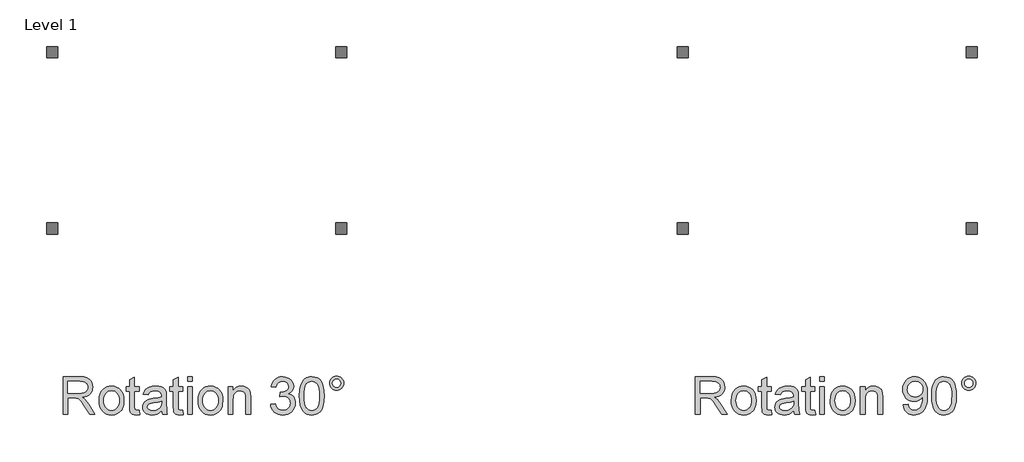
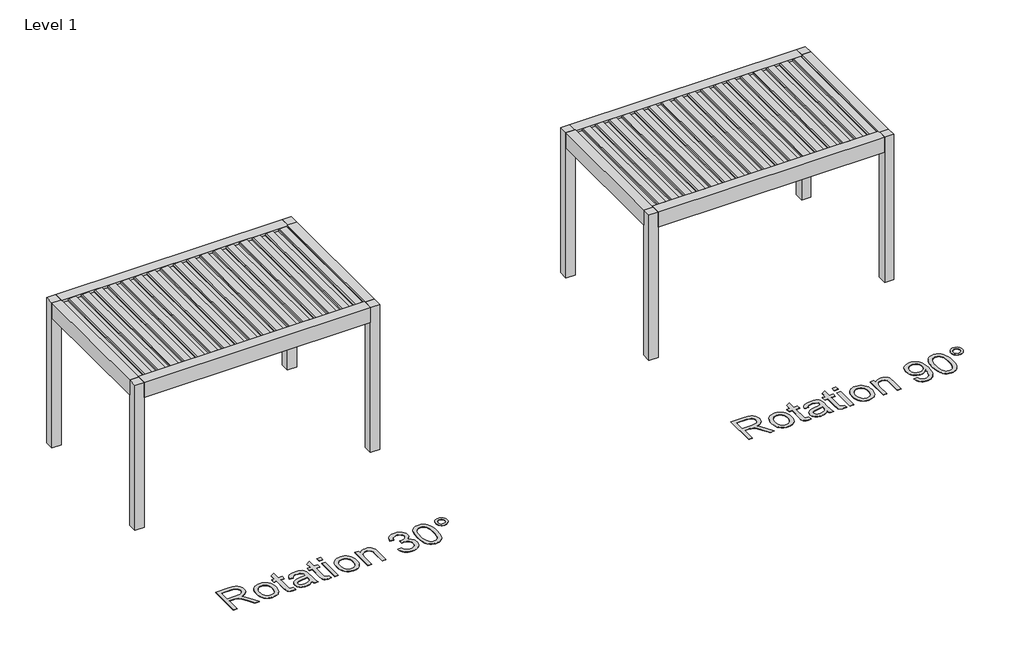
# One storey, part 53 of 69: 4 proxies.
"""IFC4 building model written with IfcOpenShell, lengths in millimetres."""

from ifc_helpers import new_model, si_unit, origin, origin_with_axes, place, context, project, spatial, polyline, outline, extrude, transform, mapped, element, save
from components import generic_models_076aa895

model = new_model("IFC4")

# Units and contexts
model_context = context("Model", 3, world=origin())
ifc_project = project(units=[si_unit("LENGTHUNIT", "METRE", prefix="MILLI")], contexts=[model_context])

# Site, building, storey
site = spatial("IfcSite", under=ifc_project)
building = spatial("IfcBuilding", under=site)
storey = spatial("IfcBuildingStorey", under=building, Name="Level 1", Elevation=0.0)

# Proxies
placement = place(None, origin())
generic_models_shape = generic_models_076aa895(model_context)
element("IfcBuildingElementProxy", 1, Name="Renson_Camargue_Skye_Freestanding_Patio covers : Renson_Camargue_Skye_Freestanding_Patio covers", ObjectType="Renson_Camargue_Skye_Freestanding_Patio covers : Renson_Camargue_Skye_Freestanding_Patio covers", at=placement, inside=storey, context=model_context, shape_type="MappedRepresentation", body=[
    mapped(generic_models_shape, transform((97932.7944478, 67778.5861401, 0.0), x_axis=(1.0, 0.0, 0.0), y_axis=(0.0, 1.0, 0.0), z_axis=(0.0, 0.0, 1.0))),
])
element("IfcBuildingElementProxy", 2, Name="Renson_Camargue_Skye_Freestanding_Patio covers : Renson_Camargue_Skye_Freestanding_Patio covers", ObjectType="Renson_Camargue_Skye_Freestanding_Patio covers : Renson_Camargue_Skye_Freestanding_Patio covers", at=placement, inside=storey, context=model_context, shape_type="MappedRepresentation", body=[
    mapped(generic_models_shape, transform((106332.7944478, 67778.5861401, 0.0), x_axis=(1.0, 0.0, 0.0), y_axis=(0.0, 1.0, 0.0), z_axis=(0.0, 0.0, 1.0))),
])
element("IfcBuildingElementProxy", 3, Name="500mm Arial", ObjectType="500mm Arial", at=placement, inside=storey, context=model_context, shape_type="SweptSolid", body=[
    extrude(outline(polyline([(96154.5980946, 64128.5861401), (96154.5980946, 64630.8676909), (96371.0353351, 64630.8676909), (96429.2066756, 64627.4801108), (96471.5284335, 64617.3173707), (96502.4611779, 64598.555389), (96526.4654781, 64569.370084), (96541.8705366, 64533.1796927), (96547.0055561, 64493.402452), (96544.8787383, 64467.6047271), (96538.498285, 64443.9223237), (96527.8641961, 64422.3552417), (96512.9764716, 64402.9034812), (96493.6435063, 64386.187843), (96469.6736951, 64372.8291281), (96441.0670378, 64362.8273364), (96407.8235346, 64356.1824678), (96428.5168968, 64342.6628045), (96443.5080882, 64329.3270822), (96494.3984308, 64264.7024784), (96578.1528984, 64128.5861401), (96505.189636, 64128.5861401), (96439.8292682, 64232.6967448), (96392.6177455, 64301.6133052), (96375.0667086, 64321.7088592), (96359.4470523, 64334.1708618), (96329.587297, 64346.1270266), (96293.1669795, 64348.3343186), (96217.3832884, 64348.3343186), (96217.3832884, 64128.5861401), (96154.5980946, 64128.5861401)]), holes=[polyline([(96217.3832884, 64411.1195124), (96357.9142106, 64411.1195124), (96398.2739312, 64413.3421328), (96429.589886, 64420.009994), (96453.1649905, 64431.56762), (96470.3021601, 64448.4595349), (96480.7408117, 64468.8923141), (96484.2203623, 64491.0725327), (96482.5610612, 64507.129049), (96477.583158, 64521.6987088), (96469.2866525, 64534.7815123), (96457.671545, 64546.3774593), (96442.4695879, 64555.8734133), (96423.4125342, 64562.6562376), (96373.7331364, 64568.082497), (96217.3832884, 64568.082497), (96217.3832884, 64411.1195124)])]), origin_with_axes(), (0.0, 0.0, 1.0), 5.0),
    extrude(outline(polyline([(96633.3351977, 64313.0176471), (96636.7304419, 64360.788657), (96646.9161747, 64401.9531194), (96663.8923959, 64436.5110343), (96687.6591056, 64464.4624017), (96711.5867637, 64482.3276711), (96737.9976253, 64495.0885778), (96766.8916903, 64502.7451219), (96798.2689588, 64505.2973032), (96832.9073479, 64502.1894668), (96864.2271349, 64492.8659574), (96892.2283197, 64477.3267753), (96916.9109023, 64455.5719202), (96937.0562736, 64428.3371562), (96951.4458246, 64396.3582474), (96960.0795551, 64359.6351936), (96962.9574653, 64318.167995), (96957.8684311, 64254.7390076), (96951.5071382, 64228.7036923), (96942.6013283, 64206.4544958), (96931.2621322, 64187.2364936), (96917.600681, 64170.2947613), (96901.6169747, 64155.6292989), (96883.3110134, 64143.2401063), (96842.5834108, 64126.3635197), (96798.2689588, 64120.7379909), (96763.124732, 64123.834331), (96731.5137051, 64133.1233514), (96703.4358783, 64148.605052), (96678.8912514, 64170.2794329), (96658.9604779, 64197.7786121), (96644.7242111, 64230.7347075), (96636.182451, 64269.1477191), (96633.3351977, 64313.0176471)]), holes=[polyline([(96696.1203915, 64313.1402744), (96697.9368089, 64282.686543), (96703.3860609, 64256.3178345), (96712.4681477, 64234.0341491), (96725.1830691, 64215.8354867), (96740.6494413, 64201.6988546), (96757.9858804, 64191.6012602), (96777.1923862, 64185.5427036), (96798.2689588, 64183.5231847), (96819.2382326, 64185.5541999), (96838.3680963, 64191.6472455), (96855.6585501, 64201.8023214), (96871.1095939, 64216.0194277), (96883.8245153, 64234.398199), (96892.9066021, 64257.0382701), (96898.3558541, 64283.939641), (96900.1722715, 64315.1023117), (96898.3443578, 64344.5903529), (96892.8606168, 64370.2692825), (96883.7210485, 64392.1391007), (96870.9256529, 64410.1998074), (96855.4171275, 64424.3364395), (96838.1381701, 64434.4340339), (96819.0887805, 64440.4925905), (96798.2689588, 64442.5121094), (96777.1923862, 64440.5002547), (96757.9858804, 64434.4646907), (96740.6494413, 64424.4054174), (96725.1830691, 64410.3224348), (96712.4681477, 64392.1774218), (96703.3860609, 64369.9320574), (96697.9368089, 64343.5863416), (96696.1203915, 64313.1402744)])]), origin_with_axes(), (0.0, 0.0, 1.0), 5.0),
    extrude(outline(polyline([(97167.0093453, 64180.9480108), (97174.8574946, 64126.7467302), (97127.8912265, 64120.7379909), (97097.7555597, 64123.3438217), (97075.2841012, 64131.1613141), (97059.4038617, 64143.2094494), (97049.0418522, 64158.5072091), (97043.3396813, 64184.7801149), (97041.4389576, 64229.7536888), (97041.4389576, 64434.6639601), (96994.3500623, 64434.6639601), (96994.3500623, 64497.449154), (97041.4389576, 64497.449154), (97041.4389576, 64587.0897335), (97104.2241515, 64624.0005603), (97104.2241515, 64497.449154), (97167.0093453, 64497.449154), (97167.0093453, 64434.6639601), (97104.2241515, 64434.6639601), (97104.2241515, 64231.5930988), (97107.5350894, 64199.2194832), (97118.264981, 64187.7538277), (97139.6634504, 64183.5231847), (97167.0093453, 64180.9480108)])), origin_with_axes(), (0.0, 0.0, 1.0), 5.0),
    extrude(outline(polyline([(97465.2390161, 64175.6750355), (97435.2413051, 64149.9539527), (97404.3545459, 64133.1233514), (97371.8736314, 64123.834331), (97337.0934544, 64120.7379909), (97309.1382549, 64122.6003935), (97284.6242849, 64128.1876013), (97263.5515443, 64137.4996143), (97245.9200333, 64150.5364325), (97231.997999, 64166.4703214), (97222.0536889, 64184.4735466), (97216.0871028, 64204.5461079), (97214.0982407, 64226.6880055), (97217.1026103, 64252.7156567), (97226.1157192, 64276.3520749), (97240.018593, 64296.5855846), (97257.6922571, 64312.4045104), (97278.4622615, 64324.3606752), (97301.6541556, 64333.0059021), (97355.9780635, 64342.4482067), (97420.1734717, 64352.3810205), (97464.8711341, 64364.030617), (97465.2390161, 64378.0101329), (97460.9164026, 64406.0304782), (97447.9485623, 64424.3632643), (97434.8734231, 64432.303384), (97418.9471984, 64437.9748981), (97378.5414926, 64442.5121094), (97341.1401564, 64439.4924113), (97315.0205347, 64430.4333172), (97297.2089148, 64413.679358), (97284.7315838, 64387.5750647), (97221.9463899, 64395.423214), (97232.8448941, 64429.7588669), (97249.1083439, 64456.7368798), (97272.2542528, 64477.3689284), (97303.8001339, 64492.666688), (97342.3817581, 64502.1396494), (97386.6348965, 64505.2973032), (97429.0792816, 64502.5075314), (97462.7251558, 64494.138216), (97488.093685, 64481.5535861), (97505.7060356, 64466.1178707), (97517.3862889, 64447.0339922), (97524.9585266, 64423.5048729), (97528.0242099, 64368.5678283), (97528.0242099, 64290.454218), (97531.2125206, 64181.3772064), (97535.9336728, 64154.4145219), (97543.7205084, 64128.5861401), (97480.9353145, 64128.5861401), (97470.8798733, 64150.4138052), (97465.2390161, 64175.6750355)]), holes=[polyline([(97465.2390161, 64301.2454232), (97423.055214, 64290.7914432), (97363.9488401, 64281.9929321), (97309.9315005, 64271.8148636), (97295.8753426, 64264.8557625), (97285.4673478, 64255.2601738), (97279.0294129, 64243.7638615), (97276.8834346, 64231.1025895), (97281.5586016, 64212.4325782), (97295.5841026, 64197.1348186), (97318.6533694, 64186.9260932), (97350.4598336, 64183.5231847), (97384.1823498, 64187.2786468), (97413.9807914, 64198.5450329), (97438.1383758, 64215.1457079), (97454.9383202, 64234.9040367), (97462.3879306, 64255.2601738), (97464.8711341, 64283.4644601), (97465.2390161, 64301.2454232)])]), origin_with_axes(), (0.0, 0.0, 1.0), 5.0),
    extrude(outline(polyline([(97747.7723884, 64180.9480108), (97755.6205376, 64126.7467302), (97708.6542696, 64120.7379909), (97678.5186028, 64123.3438217), (97656.0471443, 64131.1613141), (97640.1669048, 64143.2094494), (97629.8048953, 64158.5072091), (97624.1027243, 64184.7801149), (97622.2020007, 64229.7536888), (97622.2020007, 64434.6639601), (97575.1131053, 64434.6639601), (97575.1131053, 64497.449154), (97622.2020007, 64497.449154), (97622.2020007, 64587.0897335), (97684.9871945, 64624.0005603), (97684.9871945, 64497.449154), (97747.7723884, 64497.449154), (97747.7723884, 64434.6639601), (97684.9871945, 64434.6639601), (97684.9871945, 64231.5930988), (97688.2981325, 64199.2194832), (97699.028024, 64187.7538277), (97720.4264934, 64183.5231847), (97747.7723884, 64180.9480108)])), origin_with_axes(), (0.0, 0.0, 1.0), 5.0),
    extrude(outline(polyline([(97810.5575822, 64568.082497), (97810.5575822, 64630.8676909), (97873.3427761, 64630.8676909), (97873.3427761, 64568.082497), (97810.5575822, 64568.082497)])), origin_with_axes(), (0.0, 0.0, 1.0), 5.0),
    extrude(outline(polyline([(97810.5575822, 64128.5861401), (97810.5575822, 64497.449154), (97873.3427761, 64497.449154), (97873.3427761, 64128.5861401), (97810.5575822, 64128.5861401)])), origin_with_axes(), (0.0, 0.0, 1.0), 5.0),
    extrude(outline(polyline([(97951.8242684, 64313.0176471), (97955.2195126, 64360.788657), (97965.4052454, 64401.9531194), (97982.3814666, 64436.5110343), (98006.1481763, 64464.4624017), (98030.0758344, 64482.3276711), (98056.486696, 64495.0885778), (98085.380761, 64502.7451219), (98116.7580295, 64505.2973032), (98151.3964187, 64502.1894668), (98182.7162056, 64492.8659574), (98210.7173904, 64477.3267753), (98235.399973, 64455.5719202), (98255.5453443, 64428.3371562), (98269.9348953, 64396.3582474), (98278.5686259, 64359.6351936), (98281.4465361, 64318.167995), (98276.3575018, 64254.7390076), (98269.996209, 64228.7036923), (98261.090399, 64206.4544958), (98249.7512029, 64187.2364936), (98236.0897517, 64170.2947613), (98220.1060455, 64155.6292989), (98201.8000841, 64143.2401063), (98161.0724815, 64126.3635197), (98116.7580295, 64120.7379909), (98081.6138027, 64123.834331), (98050.0027758, 64133.1233514), (98021.924949, 64148.605052), (97997.3803221, 64170.2794329), (97977.4495486, 64197.7786121), (97963.2132818, 64230.7347075), (97954.6715217, 64269.1477191), (97951.8242684, 64313.0176471)]), holes=[polyline([(98014.6094622, 64313.1402744), (98016.4258796, 64282.686543), (98021.8751316, 64256.3178345), (98030.9572184, 64234.0341491), (98043.6721398, 64215.8354867), (98059.1385121, 64201.6988546), (98076.4749511, 64191.6012602), (98095.6814569, 64185.5427036), (98116.7580295, 64183.5231847), (98137.7273033, 64185.5541999), (98156.857167, 64191.6472455), (98174.1476208, 64201.8023214), (98189.5986646, 64216.0194277), (98202.3135861, 64234.398199), (98211.3956728, 64257.0382701), (98216.8449249, 64283.939641), (98218.6613422, 64315.1023117), (98216.8334285, 64344.5903529), (98211.3496876, 64370.2692825), (98202.2101192, 64392.1391007), (98189.4147236, 64410.1998074), (98173.9061982, 64424.3364395), (98156.6272408, 64434.4340339), (98137.5778512, 64440.4925905), (98116.7580295, 64442.5121094), (98095.6814569, 64440.5002547), (98076.4749511, 64434.4646907), (98059.1385121, 64424.4054174), (98043.6721398, 64410.3224348), (98030.9572184, 64392.1774218), (98021.8751316, 64369.9320574), (98016.4258796, 64343.5863416), (98014.6094622, 64313.1402744)])]), origin_with_axes(), (0.0, 0.0, 1.0), 5.0),
    extrude(outline(polyline([(98352.0798791, 64128.5861401), (98352.0798791, 64497.449154), (98414.865073, 64497.449154), (98414.865073, 64445.9456746), (98436.6774096, 64471.9120121), (98462.8736733, 64490.4593961), (98493.4538642, 64501.5878264), (98528.4179821, 64505.2973032), (98559.366055, 64502.308262), (98587.708297, 64493.3411384), (98611.3447152, 64479.5149067), (98628.1753165, 64461.9485414), (98639.5949868, 64440.6880278), (98646.9986119, 64415.779351), (98650.3095499, 64355.0788218), (98650.3095499, 64128.5861401), (98587.524356, 64128.5861401), (98587.524356, 64346.6175359), (98585.7156029, 64379.083122), (98580.2893435, 64402.1677172), (98570.2798875, 64418.7070786), (98554.7215448, 64431.5369632), (98534.779275, 64439.7683228), (98511.6180377, 64442.5121094), (98492.5533197, 64440.9716035), (98474.8451666, 64436.3500859), (98458.4935783, 64428.6475567), (98443.4985549, 64417.8640157), (98430.9714066, 64402.7731897), (98422.0234435, 64382.1488053), (98416.6546656, 64355.9908626), (98414.865073, 64324.2993616), (98414.865073, 64128.5861401), (98352.0798791, 64128.5861401)])), origin_with_axes(), (0.0, 0.0, 1.0), 5.0),
    extrude(outline(polyline([(98917.1466237, 64262.0046771), (98979.9318176, 64269.8528263), (98993.9879755, 64230.3974823), (99003.4647689, 64215.4752689), (99014.5740388, 64203.7566945), (99027.5687038, 64194.904534), (99042.701683, 64188.5815622), (99079.3825836, 64183.5231847), (99102.1299536, 64185.26296), (99122.424777, 64190.4822858), (99140.2670538, 64199.1811622), (99155.6567839, 64211.359589), (99168.0498086, 64226.1055257), (99176.9019691, 64242.5069313), (99182.2132655, 64260.5638059), (99183.9836976, 64280.2761495), (99182.2285939, 64299.0496275), (99176.9632828, 64316.1293156), (99168.1877644, 64331.5152136), (99155.9020386, 64345.2073216), (99140.9108473, 64356.446883), (99124.0189323, 64364.4751411), (99105.2262938, 64369.292096), (99084.5329315, 64370.8977476), (99040.5097194, 64364.030617), (99047.4994773, 64426.8158109), (99057.5549185, 64426.0800469), (99095.1708526, 64430.5866013), (99128.8013983, 64444.1062647), (99142.6429583, 64454.3303184), (99152.529787, 64466.976262), (99158.4618841, 64482.0440954), (99160.4392499, 64499.5338186), (99154.7064221, 64526.6497873), (99137.5079388, 64548.646065), (99111.2656898, 64563.223389), (99078.4015649, 64568.082497), (99045.4761264, 64563.1774038), (99018.5594271, 64548.462124), (99007.6685872, 64537.4256641), (98998.9083971, 64523.9366576), (98987.7799668, 64489.6010047), (98924.994773, 64497.449154), (98932.4367191, 64527.4238724), (98943.4808432, 64553.8270697), (98958.1271451, 64576.6587461), (98976.3756249, 64595.9189013), (98997.651467, 64611.2089968), (99021.3798557, 64622.1304935), (99047.560791, 64628.6833915), (99076.194273, 64630.8676909), (99115.6649454, 64626.5604059), (99151.9166503, 64613.6385508), (99182.4815127, 64593.2517569), (99204.8916576, 64566.5496554), (99218.6412472, 64535.7855235), (99223.2244437, 64503.2126386), (99218.8711734, 64472.862374), (99205.8113626, 64445.332538), (99184.2289522, 64421.8800608), (99154.3078833, 64403.7618725), (99175.2311718, 64397.2166387), (99193.6099431, 64387.8816331), (99209.4441973, 64375.7568556), (99222.7339344, 64360.8423064), (99233.2492281, 64343.5058674), (99240.7601521, 64324.1154206), (99245.2667066, 64302.6709659), (99246.7688914, 64279.1725035), (99243.7645218, 64247.3200541), (99234.7514129, 64217.981465), (99219.7295648, 64191.1567361), (99198.6989774, 64166.8458676), (99173.0775292, 64146.6736716), (99144.2830989, 64132.2649601), (99112.3156864, 64123.6197332), (99077.1752916, 64120.7379909), (99045.4148127, 64123.1982017), (99016.4747624, 64130.5788343), (98990.3551408, 64142.8798885), (98967.0559477, 64160.1013644), (98947.5198809, 64181.2315865), (98932.689638, 64205.2588793), (98922.5652189, 64232.1832428), (98917.1466237, 64262.0046771)])), origin_with_axes(), (0.0, 0.0, 1.0), 5.0),
    extrude(outline(polyline([(99301.705936, 64375.6802136), (99306.3197894, 64456.0777579), (99320.1613494, 64520.196524), (99330.5080306, 64546.3966198), (99343.0926605, 64569.0175304), (99357.9152392, 64588.0592558), (99374.9757667, 64603.5217959), (99394.3317246, 64615.485625), (99416.0405944, 64624.0312171), (99440.1023762, 64629.1585724), (99466.5170699, 64630.8676909), (99505.205993, 64626.8209889), (99539.8482142, 64614.6808831), (99568.8189213, 64594.9225543), (99590.4933022, 64568.0211834), (99606.864051, 64534.2066967), (99619.9238618, 64493.7090203), (99628.4771182, 64442.2821831), (99631.3282037, 64375.6802136), (99626.7603356, 64295.7425217), (99613.0567313, 64231.7770398), (99602.7905243, 64205.5654476), (99590.263376, 64182.9100481), (99575.4752862, 64163.8108412), (99558.426255, 64148.2678269), (99539.0473045, 64136.2235236), (99517.2694568, 64127.6204499), (99493.0927119, 64122.4586057), (99466.5170699, 64120.7379909), (99431.9361623, 64123.7270321), (99401.2793294, 64132.6941557), (99374.5465711, 64147.6393618), (99351.7378874, 64168.5626503), (99329.8489086, 64206.3855179), (99314.2139238, 64253.5127343), (99304.832933, 64309.9442995), (99301.705936, 64375.6802136)]), holes=[polyline([(99364.4911299, 64375.8028409), (99366.3305398, 64321.222182), (99371.8487698, 64277.0418536), (99381.0458196, 64243.2618558), (99393.9216895, 64219.8821886), (99409.4953606, 64203.9751244), (99426.7858144, 64192.6129357), (99445.7930508, 64185.7956225), (99466.5170699, 64183.5231847), (99487.2410889, 64185.8032867), (99506.2483253, 64192.6435925), (99523.5387791, 64204.0441023), (99539.1124502, 64220.0048159), (99551.9883201, 64243.4228042), (99561.1853699, 64277.1951378), (99566.7035999, 64321.3218167), (99568.5430098, 64375.8028409), (99566.7649135, 64428.9387966), (99561.4306246, 64472.3412078), (99552.5401431, 64506.0100746), (99540.0934689, 64529.9453969), (99524.7803808, 64546.6303782), (99507.2906576, 64558.548222), (99487.6242993, 64565.6989283), (99465.7813059, 64568.082497), (99445.1645857, 64565.982504), (99426.479246, 64559.6825248), (99409.7252868, 64549.1825595), (99394.9027081, 64534.4826081), (99381.5976426, 64508.4243002), (99372.0940244, 64473.2915696), (99366.3918535, 64429.0844165), (99364.4911299, 64375.8028409)])]), origin_with_axes(), (0.0, 0.0, 1.0), 5.0),
    extrude(outline(polyline([(99701.9615468, 64544.6606767), (99703.6898257, 64563.4916363), (99708.8746626, 64580.8663964), (99717.5160574, 64596.7849569), (99729.6140101, 64611.2473178), (99744.1338526, 64623.2647963), (99760.0409168, 64631.8487095), (99777.3352026, 64636.9990575), (99796.0167102, 64638.7158401), (99814.9549687, 64636.9990575), (99832.4063709, 64631.8487095), (99848.3709166, 64623.2647963), (99862.848606, 64611.2473178), (99874.8660845, 64596.7849569), (99883.4499977, 64580.8663964), (99888.6003456, 64563.4916363), (99890.3171283, 64544.6606767), (99888.5888493, 64525.8718702), (99883.4040125, 64508.5009422), (99874.7626177, 64492.5478928), (99862.664665, 64478.0127219), (99848.1294941, 64465.9147692), (99832.1764446, 64457.2733744), (99814.8055167, 64452.0885375), (99796.0167102, 64450.3602586), (99777.3352026, 64452.0770412), (99760.0409168, 64457.2273892), (99744.1338526, 64465.8113024), (99729.6140101, 64477.8287809), (99717.5160574, 64492.3064702), (99708.8746626, 64508.271016), (99703.6898257, 64525.7224181), (99701.9615468, 64544.6606767)]), holes=[polyline([(99741.2022929, 64544.5380493), (99745.2336664, 64523.4154915), (99757.327787, 64505.6651852), (99775.1240786, 64493.6170498), (99796.2619649, 64489.6010047), (99817.2159102, 64493.6170498), (99834.950888, 64505.6651852), (99847.0450086, 64523.4154915), (99851.0763821, 64544.5380493), (99847.0450086, 64565.6606072), (99834.950888, 64583.4109135), (99817.2159102, 64595.4590488), (99796.2619649, 64599.475094), (99775.1240786, 64595.4590488), (99757.327787, 64583.4109135), (99745.2336664, 64565.6606072), (99741.2022929, 64544.5380493)])]), origin_with_axes(), (0.0, 0.0, 1.0), 5.0),
])
element("IfcBuildingElementProxy", 4, Name="500mm Arial", ObjectType="500mm Arial", at=placement, inside=storey, context=model_context, shape_type="SweptSolid", body=[
    extrude(outline(polyline([(104574.9410888, 64128.5861401), (104574.9410888, 64630.8676909), (104791.3783293, 64630.8676909), (104849.5496698, 64627.4801108), (104891.8714276, 64617.3173707), (104922.8041721, 64598.555389), (104946.8084722, 64569.370084), (104962.2135308, 64533.1796927), (104967.3485503, 64493.402452), (104965.2217325, 64467.6047271), (104958.8412792, 64443.9223237), (104948.2071902, 64422.3552417), (104933.3194658, 64402.9034812), (104913.9865005, 64386.187843), (104890.0166892, 64372.8291281), (104861.410032, 64362.8273364), (104828.1665288, 64356.1824678), (104848.859891, 64342.6628045), (104863.8510823, 64329.3270822), (104914.741425, 64264.7024784), (104998.4958926, 64128.5861401), (104925.5326302, 64128.5861401), (104860.1722624, 64232.6967448), (104812.9607397, 64301.6133052), (104795.4097028, 64321.7088592), (104779.7900464, 64334.1708618), (104749.9302912, 64346.1270266), (104713.5099736, 64348.3343186), (104637.7262826, 64348.3343186), (104637.7262826, 64128.5861401), (104574.9410888, 64128.5861401)]), holes=[polyline([(104637.7262826, 64411.1195124), (104778.2572048, 64411.1195124), (104818.6169253, 64413.3421328), (104849.9328802, 64420.009994), (104873.5079847, 64431.56762), (104890.6451543, 64448.4595349), (104901.0838059, 64468.8923141), (104904.5633565, 64491.0725327), (104902.9040554, 64507.129049), (104897.9261521, 64521.6987088), (104889.6296467, 64534.7815123), (104878.0145391, 64546.3774593), (104862.8125821, 64555.8734133), (104843.7555283, 64562.6562376), (104794.0761306, 64568.082497), (104637.7262826, 64568.082497), (104637.7262826, 64411.1195124)])]), origin_with_axes(), (0.0, 0.0, 1.0), 5.0),
    extrude(outline(polyline([(105053.6781918, 64313.0176471), (105057.0734361, 64360.788657), (105067.2591688, 64401.9531194), (105084.2353901, 64436.5110343), (105108.0020998, 64464.4624017), (105131.9297579, 64482.3276711), (105158.3406195, 64495.0885778), (105187.2346845, 64502.7451219), (105218.611953, 64505.2973032), (105253.2503421, 64502.1894668), (105284.5701291, 64492.8659574), (105312.5713138, 64477.3267753), (105337.2538965, 64455.5719202), (105357.3992678, 64428.3371562), (105371.7888188, 64396.3582474), (105380.4225493, 64359.6351936), (105383.3004595, 64318.167995), (105378.2114253, 64254.7390076), (105371.8501324, 64228.7036923), (105362.9443225, 64206.4544958), (105351.6051264, 64187.2364936), (105337.9436752, 64170.2947613), (105321.9599689, 64155.6292989), (105303.6540076, 64143.2401063), (105262.926405, 64126.3635197), (105218.611953, 64120.7379909), (105183.4677262, 64123.834331), (105151.8566993, 64133.1233514), (105123.7788724, 64148.605052), (105099.2342456, 64170.2794329), (105079.3034721, 64197.7786121), (105065.0672053, 64230.7347075), (105056.5254452, 64269.1477191), (105053.6781918, 64313.0176471)]), holes=[polyline([(105116.4633857, 64313.1402744), (105118.279803, 64282.686543), (105123.7290551, 64256.3178345), (105132.8111418, 64234.0341491), (105145.5260633, 64215.8354867), (105160.9924355, 64201.6988546), (105178.3288745, 64191.6012602), (105197.5353804, 64185.5427036), (105218.611953, 64183.5231847), (105239.5812267, 64185.5541999), (105258.7110905, 64191.6472455), (105276.0015443, 64201.8023214), (105291.4525881, 64216.0194277), (105304.1675095, 64234.398199), (105313.2495963, 64257.0382701), (105318.6988483, 64283.939641), (105320.5152657, 64315.1023117), (105318.687352, 64344.5903529), (105313.203611, 64370.2692825), (105304.0640427, 64392.1391007), (105291.2686471, 64410.1998074), (105275.7601217, 64424.3364395), (105258.4811642, 64434.4340339), (105239.4317747, 64440.4925905), (105218.611953, 64442.5121094), (105197.5353804, 64440.5002547), (105178.3288745, 64434.4646907), (105160.9924355, 64424.4054174), (105145.5260633, 64410.3224348), (105132.8111418, 64392.1774218), (105123.7290551, 64369.9320574), (105118.279803, 64343.5863416), (105116.4633857, 64313.1402744)])]), origin_with_axes(), (0.0, 0.0, 1.0), 5.0),
    extrude(outline(polyline([(105587.3523395, 64180.9480108), (105595.2004887, 64126.7467302), (105548.2342207, 64120.7379909), (105518.0985539, 64123.3438217), (105495.6270954, 64131.1613141), (105479.7468559, 64143.2094494), (105469.3848464, 64158.5072091), (105463.6826755, 64184.7801149), (105461.7819518, 64229.7536888), (105461.7819518, 64434.6639601), (105414.6930564, 64434.6639601), (105414.6930564, 64497.449154), (105461.7819518, 64497.449154), (105461.7819518, 64587.0897335), (105524.5671457, 64624.0005603), (105524.5671457, 64497.449154), (105587.3523395, 64497.449154), (105587.3523395, 64434.6639601), (105524.5671457, 64434.6639601), (105524.5671457, 64231.5930988), (105527.8780836, 64199.2194832), (105538.6079751, 64187.7538277), (105560.0064445, 64183.5231847), (105587.3523395, 64180.9480108)])), origin_with_axes(), (0.0, 0.0, 1.0), 5.0),
    extrude(outline(polyline([(105885.5820103, 64175.6750355), (105855.5842992, 64149.9539527), (105824.6975401, 64133.1233514), (105792.2166256, 64123.834331), (105757.4364486, 64120.7379909), (105729.4812491, 64122.6003935), (105704.9672791, 64128.1876013), (105683.8945385, 64137.4996143), (105666.2630275, 64150.5364325), (105652.3409932, 64166.4703214), (105642.396683, 64184.4735466), (105636.4300969, 64204.5461079), (105634.4412349, 64226.6880055), (105637.4456045, 64252.7156567), (105646.4587134, 64276.3520749), (105660.3615871, 64296.5855846), (105678.0352513, 64312.4045104), (105698.8052556, 64324.3606752), (105721.9971497, 64333.0059021), (105776.3210577, 64342.4482067), (105840.5164659, 64352.3810205), (105885.2141283, 64364.030617), (105885.5820103, 64378.0101329), (105881.2593968, 64406.0304782), (105868.2915565, 64424.3632643), (105855.2164172, 64432.303384), (105839.2901925, 64437.9748981), (105798.8844867, 64442.5121094), (105761.4831506, 64439.4924113), (105735.3635289, 64430.4333172), (105717.551909, 64413.679358), (105705.074578, 64387.5750647), (105642.2893841, 64395.423214), (105653.1878882, 64429.7588669), (105669.4513381, 64456.7368798), (105692.597247, 64477.3689284), (105724.143128, 64492.666688), (105762.7247523, 64502.1396494), (105806.9778906, 64505.2973032), (105849.4222758, 64502.5075314), (105883.06815, 64494.138216), (105908.4366792, 64481.5535861), (105926.0490297, 64466.1178707), (105937.7292831, 64447.0339922), (105945.3015208, 64423.5048729), (105948.3672041, 64368.5678283), (105948.3672041, 64290.454218), (105951.5555147, 64181.3772064), (105956.276667, 64154.4145219), (105964.0635026, 64128.5861401), (105901.2783087, 64128.5861401), (105891.2228675, 64150.4138052), (105885.5820103, 64175.6750355)]), holes=[polyline([(105885.5820103, 64301.2454232), (105843.3982082, 64290.7914432), (105784.2918343, 64281.9929321), (105730.2744946, 64271.8148636), (105716.2183367, 64264.8557625), (105705.810342, 64255.2601738), (105699.372407, 64243.7638615), (105697.2264287, 64231.1025895), (105701.9015958, 64212.4325782), (105715.9270968, 64197.1348186), (105738.9963636, 64186.9260932), (105770.8028278, 64183.5231847), (105804.525344, 64187.2786468), (105834.3237856, 64198.5450329), (105858.48137, 64215.1457079), (105875.2813144, 64234.9040367), (105882.7309248, 64255.2601738), (105885.2141283, 64283.4644601), (105885.5820103, 64301.2454232)])]), origin_with_axes(), (0.0, 0.0, 1.0), 5.0),
    extrude(outline(polyline([(106168.1153826, 64180.9480108), (106175.9635318, 64126.7467302), (106128.9972637, 64120.7379909), (106098.861597, 64123.3438217), (106076.3901384, 64131.1613141), (106060.509899, 64143.2094494), (106050.1478894, 64158.5072091), (106044.4457185, 64184.7801149), (106042.5449949, 64229.7536888), (106042.5449949, 64434.6639601), (105995.4560995, 64434.6639601), (105995.4560995, 64497.449154), (106042.5449949, 64497.449154), (106042.5449949, 64587.0897335), (106105.3301887, 64624.0005603), (106105.3301887, 64497.449154), (106168.1153826, 64497.449154), (106168.1153826, 64434.6639601), (106105.3301887, 64434.6639601), (106105.3301887, 64231.5930988), (106108.6411267, 64199.2194832), (106119.3710182, 64187.7538277), (106140.7694876, 64183.5231847), (106168.1153826, 64180.9480108)])), origin_with_axes(), (0.0, 0.0, 1.0), 5.0),
    extrude(outline(polyline([(106230.9005764, 64568.082497), (106230.9005764, 64630.8676909), (106293.6857702, 64630.8676909), (106293.6857702, 64568.082497), (106230.9005764, 64568.082497)])), origin_with_axes(), (0.0, 0.0, 1.0), 5.0),
    extrude(outline(polyline([(106230.9005764, 64128.5861401), (106230.9005764, 64497.449154), (106293.6857702, 64497.449154), (106293.6857702, 64128.5861401), (106230.9005764, 64128.5861401)])), origin_with_axes(), (0.0, 0.0, 1.0), 5.0),
    extrude(outline(polyline([(106372.1672626, 64313.0176471), (106375.5625068, 64360.788657), (106385.7482395, 64401.9531194), (106402.7244608, 64436.5110343), (106426.4911705, 64464.4624017), (106450.4188286, 64482.3276711), (106476.8296902, 64495.0885778), (106505.7237552, 64502.7451219), (106537.1010237, 64505.2973032), (106571.7394128, 64502.1894668), (106603.0591998, 64492.8659574), (106631.0603846, 64477.3267753), (106655.7429672, 64455.5719202), (106675.8883385, 64428.3371562), (106690.2778895, 64396.3582474), (106698.91162, 64359.6351936), (106701.7895302, 64318.167995), (106696.700496, 64254.7390076), (106690.3392031, 64228.7036923), (106681.4333932, 64206.4544958), (106670.0941971, 64187.2364936), (106656.4327459, 64170.2947613), (106640.4490396, 64155.6292989), (106622.1430783, 64143.2401063), (106581.4154757, 64126.3635197), (106537.1010237, 64120.7379909), (106501.9567969, 64123.834331), (106470.34577, 64133.1233514), (106442.2679432, 64148.605052), (106417.7233163, 64170.2794329), (106397.7925428, 64197.7786121), (106383.556276, 64230.7347075), (106375.0145159, 64269.1477191), (106372.1672626, 64313.0176471)]), holes=[polyline([(106434.9524564, 64313.1402744), (106436.7688737, 64282.686543), (106442.2181258, 64256.3178345), (106451.3002126, 64234.0341491), (106464.015134, 64215.8354867), (106479.4815062, 64201.6988546), (106496.8179453, 64191.6012602), (106516.0244511, 64185.5427036), (106537.1010237, 64183.5231847), (106558.0702974, 64185.5541999), (106577.2001612, 64191.6472455), (106594.490615, 64201.8023214), (106609.9416588, 64216.0194277), (106622.6565802, 64234.398199), (106631.738667, 64257.0382701), (106637.187919, 64283.939641), (106639.0043364, 64315.1023117), (106637.1764227, 64344.5903529), (106631.6926817, 64370.2692825), (106622.5531134, 64392.1391007), (106609.7577178, 64410.1998074), (106594.2491924, 64424.3364395), (106576.970235, 64434.4340339), (106557.9208454, 64440.4925905), (106537.1010237, 64442.5121094), (106516.0244511, 64440.5002547), (106496.8179453, 64434.4646907), (106479.4815062, 64424.4054174), (106464.015134, 64410.3224348), (106451.3002126, 64392.1774218), (106442.2181258, 64369.9320574), (106436.7688737, 64343.5863416), (106434.9524564, 64313.1402744)])]), origin_with_axes(), (0.0, 0.0, 1.0), 5.0),
    extrude(outline(polyline([(106772.4228733, 64128.5861401), (106772.4228733, 64497.449154), (106835.2080671, 64497.449154), (106835.2080671, 64445.9456746), (106857.0204038, 64471.9120121), (106883.2166675, 64490.4593961), (106913.7968584, 64501.5878264), (106948.7609763, 64505.2973032), (106979.7090492, 64502.308262), (107008.0512912, 64493.3411384), (107031.6877094, 64479.5149067), (107048.5183107, 64461.9485414), (107059.937981, 64440.6880278), (107067.3416061, 64415.779351), (107070.6525441, 64355.0788218), (107070.6525441, 64128.5861401), (107007.8673502, 64128.5861401), (107007.8673502, 64346.6175359), (107006.0585971, 64379.083122), (107000.6323376, 64402.1677172), (106990.6228817, 64418.7070786), (106975.064539, 64431.5369632), (106955.1222692, 64439.7683228), (106931.9610319, 64442.5121094), (106912.8963139, 64440.9716035), (106895.1881608, 64436.3500859), (106878.8365725, 64428.6475567), (106863.8415491, 64417.8640157), (106851.3144008, 64402.7731897), (106842.3664376, 64382.1488053), (106836.9976598, 64355.9908626), (106835.2080671, 64324.2993616), (106835.2080671, 64128.5861401), (106772.4228733, 64128.5861401)])), origin_with_axes(), (0.0, 0.0, 1.0), 5.0),
    extrude(outline(polyline([(107345.3377671, 64254.1565278), (107408.122961, 64262.0046771), (107418.8528525, 64226.3661088), (107436.3272473, 64202.1012255), (107460.1169496, 64188.1676949), (107489.7927639, 64183.5231847), (107516.4182233, 64186.512226), (107540.6217929, 64195.4793496), (107560.7326753, 64209.443537), (107575.0800731, 64227.4237695), (107585.9479204, 64251.0601877), (107595.6201512, 64281.9929321), (107602.4259681, 64317.4935447), (107604.6945737, 64354.8335672), (107604.3266917, 64367.0963003), (107582.5756688, 64340.547483), (107554.1107994, 64319.5168956), (107520.9860914, 64305.8132913), (107485.2555526, 64301.2454232), (107455.4302863, 64304.035195), (107428.0039171, 64312.4045104), (107402.9764451, 64326.3533694), (107380.3478703, 64345.881772), (107361.5973849, 64369.9703784), (107348.204181, 64397.5998491), (107340.1682587, 64428.770184), (107337.4896179, 64463.4813831), (107340.2985502, 64499.3498776), (107348.7253472, 64531.5395522), (107362.7700088, 64560.0504068), (107382.432535, 64584.8824415), (107406.3257041, 64605.0009881), (107433.0622946, 64619.3713785), (107462.6423062, 64627.9936128), (107495.0657392, 64630.8676909), (107519.0048936, 64629.2275503), (107541.8940515, 64624.3071286), (107563.7332128, 64616.1064258), (107584.5223777, 64604.6254419), (107603.5679351, 64590.1094315), (107620.1762744, 64572.8036493), (107634.3473954, 64552.7080953), (107646.0812982, 64529.8227695), (107655.2821802, 64502.8294281), (107661.8542387, 64470.4098273), (107667.1118856, 64389.2918474), (107661.8695671, 64303.2841026), (107655.3166691, 64267.6033812), (107646.1426119, 64236.8047604), (107634.3818843, 64210.1371478), (107620.0689754, 64186.8494511), (107603.2038852, 64166.9416702), (107583.7866137, 64150.4138052), (107562.2080354, 64137.4306364), (107538.859025, 64128.1569445), (107513.7395825, 64122.5927293), (107486.8497079, 64120.7379909), (107458.6530859, 64122.9261224), (107433.1695935, 64129.4905167), (107410.3992308, 64140.431174), (107390.3419979, 64155.7480941), (107373.5037324, 64175.0274099), (107360.3902721, 64197.8552541), (107351.001617, 64224.2316268), (107345.3377671, 64254.1565278)]), holes=[polyline([(107604.3266917, 64464.9529111), (107602.6329017, 64487.4550264), (107597.5515317, 64507.5045952), (107589.0825816, 64525.1016173), (107577.2260514, 64540.2460927), (107562.5644211, 64552.4245196), (107545.6801703, 64561.123396), (107526.5732992, 64566.3427218), (107505.2438077, 64568.082497), (107483.2322017, 64566.2085981), (107463.3052602, 64560.5869014), (107445.4629835, 64551.2174068), (107429.7053714, 64538.1001144), (107416.8295015, 64522.001445), (107407.6324516, 64503.6878195), (107402.1142217, 64483.1592377), (107400.2748117, 64460.4156998), (107402.014587, 64440.0174096), (107407.2339128, 64421.6194777), (107415.9327892, 64405.2219042), (107428.111216, 64390.824689), (107443.2633557, 64379.1022825), (107460.8833704, 64370.729135), (107480.9712602, 64365.7052465), (107503.5270251, 64364.030617), (107524.5614445, 64365.7052465), (107543.6414909, 64370.729135), (107560.7671642, 64379.1022825), (107575.9384644, 64390.824689), (107588.3583139, 64405.5054799), (107597.2296349, 64422.7537805), (107602.5524275, 64442.5695909), (107604.3266917, 64464.9529111)])]), origin_with_axes(), (0.0, 0.0, 1.0), 5.0),
    extrude(outline(polyline([(107722.0489302, 64375.6802136), (107726.6627835, 64456.0777579), (107740.5043436, 64520.196524), (107750.8510247, 64546.3966198), (107763.4356546, 64569.0175304), (107778.2582334, 64588.0592558), (107795.3187609, 64603.5217959), (107814.6747188, 64615.485625), (107836.3835886, 64624.0312171), (107860.4453704, 64629.1585724), (107886.860064, 64630.8676909), (107925.5489872, 64626.8209889), (107960.1912084, 64614.6808831), (107989.1619155, 64594.9225543), (108010.8362964, 64568.0211834), (108027.2070452, 64534.2066967), (108040.266856, 64493.7090203), (108048.8201124, 64442.2821831), (108051.6711979, 64375.6802136), (108047.1033298, 64295.7425217), (108033.3997254, 64231.7770398), (108023.1335185, 64205.5654476), (108010.6063702, 64182.9100481), (107995.8182804, 64163.8108412), (107978.7692492, 64148.2678269), (107959.3902986, 64136.2235236), (107937.6124509, 64127.6204499), (107913.4357061, 64122.4586057), (107886.860064, 64120.7379909), (107852.2791565, 64123.7270321), (107821.6223236, 64132.6941557), (107794.8895652, 64147.6393618), (107772.0808815, 64168.5626503), (107750.1919028, 64206.3855179), (107734.556918, 64253.5127343), (107725.1759271, 64309.9442995), (107722.0489302, 64375.6802136)]), holes=[polyline([(107784.834124, 64375.8028409), (107786.673534, 64321.222182), (107792.1917639, 64277.0418536), (107801.3888138, 64243.2618558), (107814.2646836, 64219.8821886), (107829.8383548, 64203.9751244), (107847.1288085, 64192.6129357), (107866.136045, 64185.7956225), (107886.860064, 64183.5231847), (107907.5840831, 64185.8032867), (107926.5913195, 64192.6435925), (107943.8817733, 64204.0441023), (107959.4554444, 64220.0048159), (107972.3313142, 64243.4228042), (107981.5283641, 64277.1951378), (107987.046594, 64321.3218167), (107988.886004, 64375.8028409), (107987.1079077, 64428.9387966), (107981.7736188, 64472.3412078), (107972.8831372, 64506.0100746), (107960.4364631, 64529.9453969), (107945.123375, 64546.6303782), (107927.6336518, 64558.548222), (107907.9672935, 64565.6989283), (107886.1243, 64568.082497), (107865.5075799, 64565.982504), (107846.8222402, 64559.6825248), (107830.068281, 64549.1825595), (107815.2457023, 64534.4826081), (107801.9406368, 64508.4243002), (107792.4370186, 64473.2915696), (107786.7348477, 64429.0844165), (107784.834124, 64375.8028409)])]), origin_with_axes(), (0.0, 0.0, 1.0), 5.0),
    extrude(outline(polyline([(108122.3045409, 64544.6606767), (108124.0328199, 64563.4916363), (108129.2176568, 64580.8663964), (108137.8590515, 64596.7849569), (108149.9570042, 64611.2473178), (108164.4768467, 64623.2647963), (108180.3839109, 64631.8487095), (108197.6781968, 64636.9990575), (108216.3597044, 64638.7158401), (108235.2979629, 64636.9990575), (108252.7493651, 64631.8487095), (108268.7139108, 64623.2647963), (108283.1916002, 64611.2473178), (108295.2090787, 64596.7849569), (108303.7929919, 64580.8663964), (108308.9433398, 64563.4916363), (108310.6601225, 64544.6606767), (108308.9318435, 64525.8718702), (108303.7470066, 64508.5009422), (108295.1056119, 64492.5478928), (108283.0076592, 64478.0127219), (108268.4724883, 64465.9147692), (108252.5194388, 64457.2733744), (108235.1485109, 64452.0885375), (108216.3597044, 64450.3602586), (108197.6781968, 64452.0770412), (108180.3839109, 64457.2273892), (108164.4768467, 64465.8113024), (108149.9570042, 64477.8287809), (108137.8590515, 64492.3064702), (108129.2176568, 64508.271016), (108124.0328199, 64525.7224181), (108122.3045409, 64544.6606767)]), holes=[polyline([(108161.5452871, 64544.5380493), (108165.5766606, 64523.4154915), (108177.6707812, 64505.6651852), (108195.4670727, 64493.6170498), (108216.604959, 64489.6010047), (108237.5589043, 64493.6170498), (108255.2938822, 64505.6651852), (108267.3880028, 64523.4154915), (108271.4193763, 64544.5380493), (108267.3880028, 64565.6606072), (108255.2938822, 64583.4109135), (108237.5589043, 64595.4590488), (108216.604959, 64599.475094), (108195.4670727, 64595.4590488), (108177.6707812, 64583.4109135), (108165.5766606, 64565.6606072), (108161.5452871, 64544.5380493)])]), origin_with_axes(), (0.0, 0.0, 1.0), 5.0),
])

save(model, "model.ifc")
